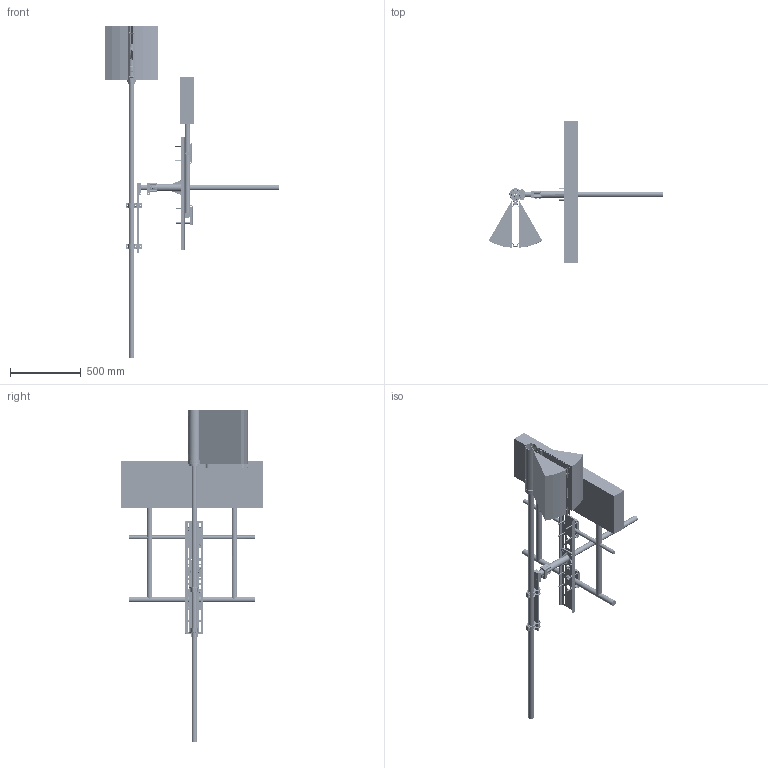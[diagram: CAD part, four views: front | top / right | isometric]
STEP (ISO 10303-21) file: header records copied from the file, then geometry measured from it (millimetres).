
FILE_DESCRIPTION (( 'STEP AP203' ), '1' );
FILE_NAME ('LZX414_TD_62050_001.STEP', '2024-06-11T08:25:08', ( '' ), ( '' ), 'SwSTEP 2.0', 'SolidWorks 2023', '' );
FILE_SCHEMA (( 'CONFIG_CONTROL_DESIGN' ));
Length unit declared in the file: millimetre
Products named in the file (21): HRO178_Stativrohr 2,0 m; HPL064_Befestigungslasche; HRO307_Stativrohr ca.0,995 m; LXZ461_TD_Geländer; LZX414.TD-001_Raum f.Schwenkbereich; curved spring lock washer_din_Spring washer DIN 128 - A8; HHK025_Kralle; ATS014A1_Sockel; HPP563_Ausgleichsplatte; plain washer normal grade a_iso_Washer ISO 7089 - 8; HPP558_Klemmplatte; BRO076_Montagerohr für FILTRAX; HWW161_Winkel; LZX414_TD_62050_001; LZX464.TD.xxxxx_FX6x0 Dummy; HPS063_Montageschiene; hex nut style 1 gradeab_iso_Hexagon Nut ISO - 4032 - M8 - W - N; AHH033_Halterung ohne Gewinde; AHH032_Halterung mit Gewinde; HRF077_Flansch; NNG020_Sechskantschraube M8x120
Assembly tree (56 placements, depth 3):
  LZX414_TD_62050_001
    LXZ461_TD_Geländer
    AHH032_Halterung mit Gewinde  x2
    AHH033_Halterung ohne Gewinde  x2
    HPL064_Befestigungslasche
    HPS063_Montageschiene
    HRO307_Stativrohr ca.0,995 m
    HPP558_Klemmplatte  x3
    HHK025_Kralle  x2
    HWW161_Winkel  x2
    HPP563_Ausgleichsplatte  x3
    NNG020_Sechskantschraube M8x120  x8
    LZX464.TD.xxxxx_FX6x0 Dummy
    BRO076_Montagerohr für FILTRAX
      HRO178_Stativrohr 2,0 m
      HRF077_Flansch
    ATS014A1_Sockel
    curved spring lock washer_din_Spring washer DIN 128 - A8  x8
    plain washer normal grade a_iso_Washer ISO 7089 - 8  x8
    hex nut style 1 gradeab_iso_Hexagon Nut ISO - 4032 - M8 - W - N  x8
    LZX414.TD-001_Raum f.Schwenkbereich
Bounding box: 1237.75 x 1000 x 2353 mm (x, y, z)
Volume: 61625766 mm3; surface area: 4656674.4 mm2
Topology: 106 solids, 106 shells, 8191 faces, 19067 edges, 10659 vertices
Faces by surface type: cylinder 2281, plane 1969, bspline 1399, cone 965, torus 830, sphere 747
Entity records: 252658 total; most frequent: CARTESIAN_POINT 101059, ORIENTED_EDGE 31894, DIRECTION 30562, EDGE_CURVE 15947, AXIS2_PLACEMENT_3D 12777, VERTEX_POINT 9125, EDGE_LOOP 7532, ADVANCED_FACE 7104
